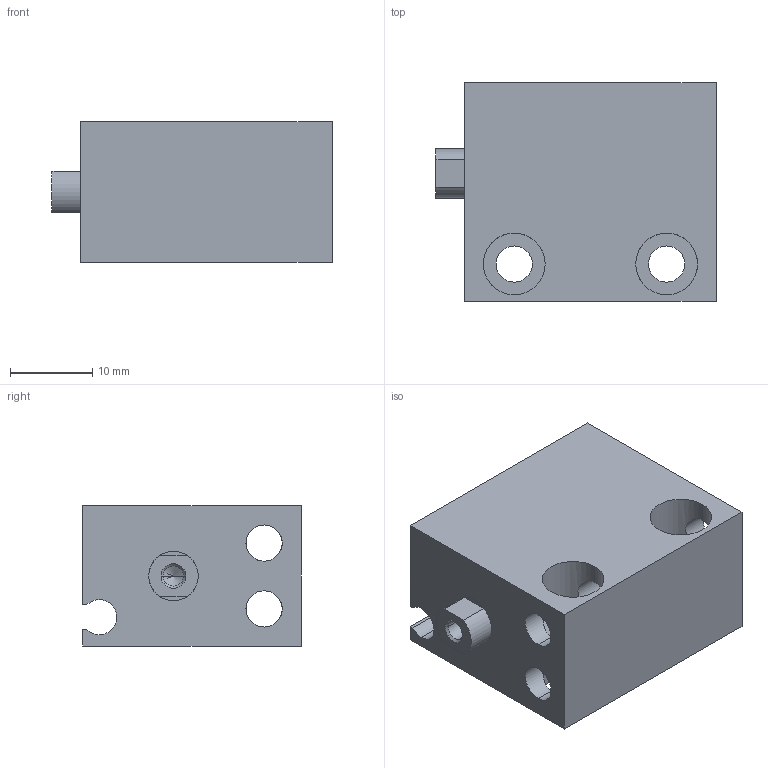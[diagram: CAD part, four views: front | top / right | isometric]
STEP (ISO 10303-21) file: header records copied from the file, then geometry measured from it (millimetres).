
FILE_DESCRIPTION (( 'STEP AP203' ), '1' );
FILE_NAME ('CLJB12-15.STEP', '2020-07-30T18:49:38', ( '' ), ( '' ), 'SwSTEP 2.0', 'SolidWorks 2019', '' );
FILE_SCHEMA (( 'CONFIG_CONTROL_DESIGN' ));
Length unit declared in the file: millimetre
Products named in the file (1): CLJB12-15
Bounding box: 34 x 26.5 x 17 mm (x, y, z)
Volume: 10234.2 mm3; surface area: 6552.8 mm2
Topology: 2 solids, 2 shells, 75 faces, 188 edges, 113 vertices
Faces by surface type: cylinder 41, plane 22, cone 12
Entity records: 3119 total; most frequent: CARTESIAN_POINT 1223, DIRECTION 394, ORIENTED_EDGE 364, EDGE_CURVE 182, AXIS2_PLACEMENT_3D 152, VERTEX_POINT 113, EDGE_LOOP 93, VECTOR 90
